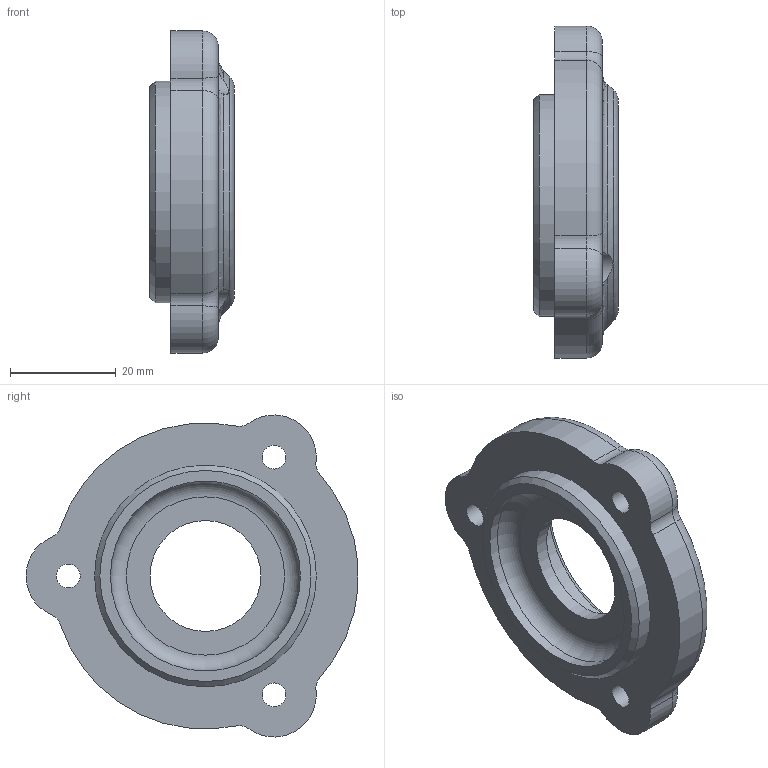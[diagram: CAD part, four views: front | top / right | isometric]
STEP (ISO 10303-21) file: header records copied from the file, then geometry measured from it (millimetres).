
FILE_DESCRIPTION(/* description */ (''),/* implementation_level */ '2;1');
FILE_NAME(/* name */ '',/* time_stamp */ '2026-03-26T11:16:38+09:00',/* author */ ('jhkim'),/* organization */ (''),/* preprocessor_version */ 'ST-DEVELOPER v20.1',/* originating_system */ 'Autodesk Inventor 2026',/* authorisation */ '');
FILE_SCHEMA (('AUTOMOTIVE_DESIGN { 1 0 10303 214 3 1 1 }'));
Length unit declared in the file: millimetre
Products named in the file (1): 커버
Bounding box: 16 x 62.91 x 61.03 mm (x, y, z)
Volume: 20540.5 mm3; surface area: 8963.8 mm2
Topology: 1 solids, 1 shells, 52 faces, 126 edges, 80 vertices
Faces by surface type: cylinder 22, torus 18, plane 9, cone 3
Full cylindrical faces by diameter (mm): 4.5 x3, 8 x3, 21 x1, 35 x1, 36 x1, 42 x1
Entity records: 1688 total; most frequent: CARTESIAN_POINT 340, DIRECTION 315, ORIENTED_EDGE 252, AXIS2_PLACEMENT_3D 145, EDGE_CURVE 126, CIRCLE 92, VERTEX_POINT 80, EDGE_LOOP 64
